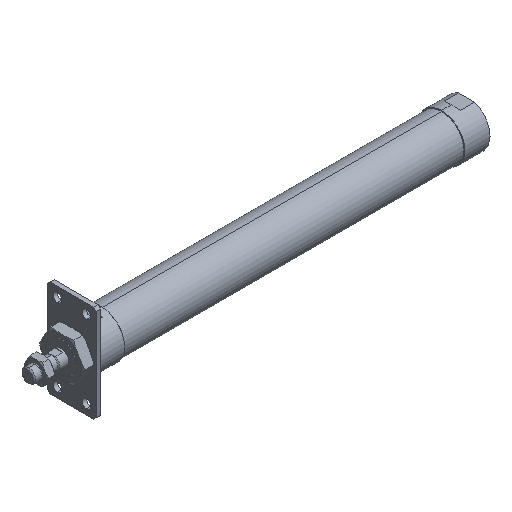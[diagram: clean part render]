
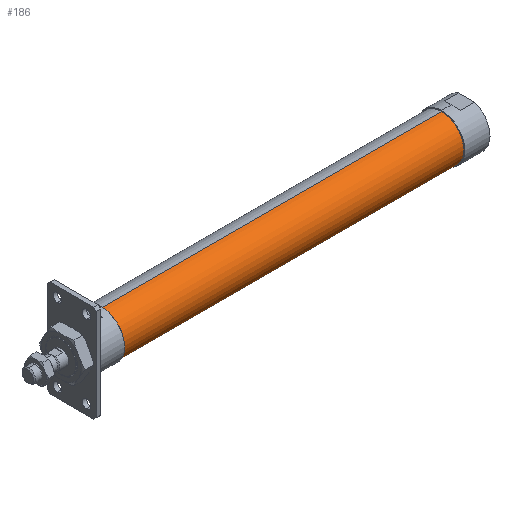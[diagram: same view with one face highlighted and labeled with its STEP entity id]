
A CAD part, isometric view. The second image highlights one B-rep face of the part: STEP entity #186.
In plain terms, the highlighted cylindrical face has radius 23 mm (diameter 46 mm), a partial arc.
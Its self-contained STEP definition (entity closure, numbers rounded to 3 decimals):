
#14 = CYLINDRICAL_SURFACE ( 'NONE', #3767, 23. ) ;
#89 = DIRECTION ( 'NONE',  ( -1., 0., 0. ) ) ;
#186 = ADVANCED_FACE ( 'NONE', ( #3516 ), #14, .T. ) ;
#415 = EDGE_CURVE ( 'NONE', #439, #3765, #2146, .T. ) ;
#439 = VERTEX_POINT ( 'NONE', #1164 ) ;
#468 = DIRECTION ( 'NONE',  ( -1., 0., 0. ) ) ;
#546 = CARTESIAN_POINT ( 'NONE',  ( -1.784, 0., 0. ) ) ;
#724 = DIRECTION ( 'NONE',  ( -1., 0., 0. ) ) ;
#882 = EDGE_CURVE ( 'NONE', #3479, #3765, #3906, .T. ) ;
#1016 = AXIS2_PLACEMENT_3D ( 'NONE', #1166, #3654, #2410 ) ;
#1164 = CARTESIAN_POINT ( 'NONE',  ( 427., 0., 23. ) ) ;
#1166 = CARTESIAN_POINT ( 'NONE',  ( 427., 0., 0. ) ) ;
#1778 = CARTESIAN_POINT ( 'NONE',  ( -1.784, 0., 23. ) ) ;
#1813 = VERTEX_POINT ( 'NONE', #3948 ) ;
#1958 = ORIENTED_EDGE ( 'NONE', *, *, #882, .F. ) ;
#2115 = DIRECTION ( 'NONE',  ( -1., 0., 0. ) ) ;
#2146 = LINE ( 'NONE', #1778, #2783 ) ;
#2305 = ORIENTED_EDGE ( 'NONE', *, *, #3753, .F. ) ;
#2410 = DIRECTION ( 'NONE',  ( 0., 0., 1. ) ) ;
#2430 = VECTOR ( 'NONE', #89, 1000. ) ;
#2610 = CARTESIAN_POINT ( 'NONE',  ( 76., 0., 23. ) ) ;
#2783 = VECTOR ( 'NONE', #468, 1000. ) ;
#2915 = DIRECTION ( 'NONE',  ( 0., 0., 1. ) ) ;
#3376 = DIRECTION ( 'NONE',  ( 0., 0., 1. ) ) ;
#3406 = AXIS2_PLACEMENT_3D ( 'NONE', #3535, #724, #2915 ) ;
#3426 = ORIENTED_EDGE ( 'NONE', *, *, #415, .T. ) ;
#3457 = EDGE_CURVE ( 'NONE', #1813, #439, #3655, .T. ) ;
#3479 = VERTEX_POINT ( 'NONE', #3953 ) ;
#3516 = FACE_OUTER_BOUND ( 'NONE', #3958, .T. ) ;
#3533 = ORIENTED_EDGE ( 'NONE', *, *, #3457, .T. ) ;
#3535 = CARTESIAN_POINT ( 'NONE',  ( 76., 0., 0. ) ) ;
#3549 = CARTESIAN_POINT ( 'NONE',  ( -1.784, 0., -23. ) ) ;
#3654 = DIRECTION ( 'NONE',  ( -1., 0., 0. ) ) ;
#3655 = CIRCLE ( 'NONE', #1016, 23. ) ;
#3695 = LINE ( 'NONE', #3549, #2430 ) ;
#3753 = EDGE_CURVE ( 'NONE', #1813, #3479, #3695, .T. ) ;
#3765 = VERTEX_POINT ( 'NONE', #2610 ) ;
#3767 = AXIS2_PLACEMENT_3D ( 'NONE', #546, #2115, #3376 ) ;
#3906 = CIRCLE ( 'NONE', #3406, 23. ) ;
#3948 = CARTESIAN_POINT ( 'NONE',  ( 427., 0., -23. ) ) ;
#3953 = CARTESIAN_POINT ( 'NONE',  ( 76., 0., -23. ) ) ;
#3958 = EDGE_LOOP ( 'NONE', ( #2305, #3533, #3426, #1958 ) ) ;
